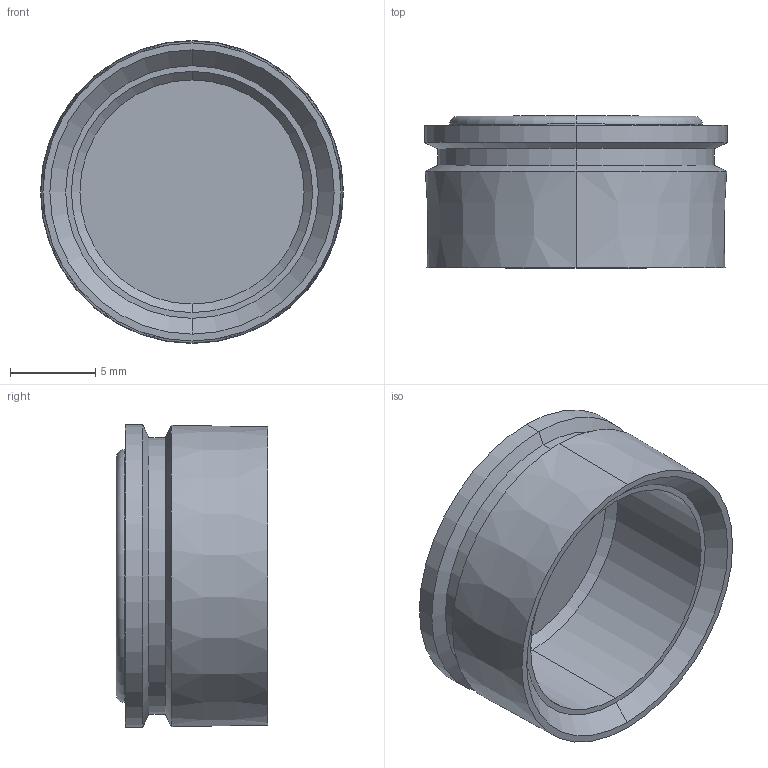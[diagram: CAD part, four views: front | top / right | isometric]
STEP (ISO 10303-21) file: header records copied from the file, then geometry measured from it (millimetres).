
FILE_DESCRIPTION (( 'STEP AP203' ), '1' );
FILE_NAME ('plc-pg-16-00.00.004 Óïëîòíèòåëü (PG16) #sealant (PG16)#.STEP', '2024-04-24T08:38:38', ( '' ), ( '' ), 'SwSTEP 2.0', 'SolidWorks 2021', '' );
FILE_SCHEMA (( 'CONFIG_CONTROL_DESIGN' ));
Length unit declared in the file: millimetre
Products named in the file (1): plc-pg-16-00.00.004 Óïëîòíèòåëü (PG16) #sealant (PG16)#
Bounding box: 17.81 x 8.91 x 17.81 mm (x, y, z)
Volume: 736.8 mm3; surface area: 1352.5 mm2
Topology: 1 solids, 1 shells, 25 faces, 48 edges, 28 vertices
Faces by surface type: cone 12, cylinder 6, plane 5, torus 2
Entity records: 713 total; most frequent: DIRECTION 130, CARTESIAN_POINT 102, ORIENTED_EDGE 96, AXIS2_PLACEMENT_3D 56, EDGE_CURVE 48, CIRCLE 30, VERTEX_POINT 28, EDGE_LOOP 28
